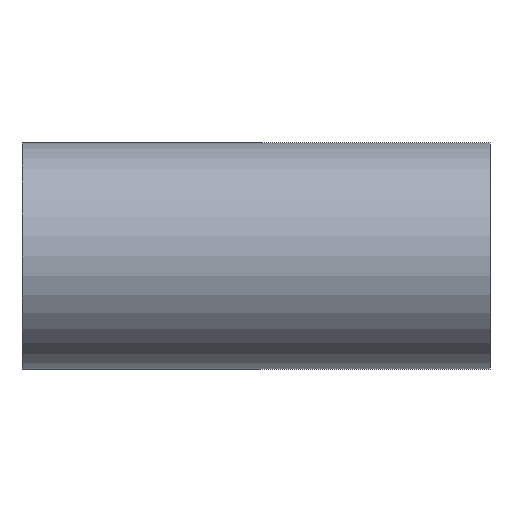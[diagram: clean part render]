
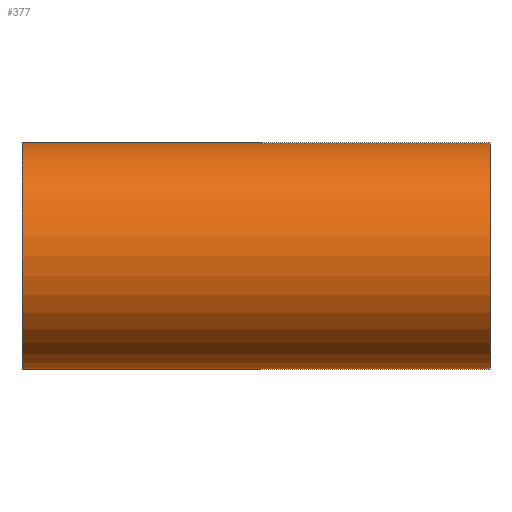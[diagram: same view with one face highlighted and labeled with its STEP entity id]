
A CAD part, front view. The second image highlights one B-rep face of the part: STEP entity #377.
In plain terms, the highlighted cylindrical face has radius 50.8 mm (diameter 101.6 mm), a partial arc.
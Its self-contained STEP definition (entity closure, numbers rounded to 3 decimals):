
#4 = VECTOR ( 'NONE', #172, 1000. ) ;
#11 = LINE ( 'NONE', #407, #100 ) ;
#15 = DIRECTION ( 'NONE',  ( 1., 0., 0. ) ) ;
#17 = CARTESIAN_POINT ( 'NONE',  ( -104.8, 0., 0. ) ) ;
#22 = CARTESIAN_POINT ( 'NONE',  ( 0., 0., -50.8 ) ) ;
#29 = FACE_OUTER_BOUND ( 'NONE', #252, .T. ) ;
#34 = EDGE_CURVE ( 'NONE', #273, #365, #193, .T. ) ;
#47 = DIRECTION ( 'NONE',  ( 1., 0., 0. ) ) ;
#57 = DIRECTION ( 'NONE',  ( 0., 0., -1. ) ) ;
#71 = DIRECTION ( 'NONE',  ( 1., 0., 0. ) ) ;
#78 = ORIENTED_EDGE ( 'NONE', *, *, #34, .F. ) ;
#83 = LINE ( 'NONE', #165, #4 ) ;
#85 = CYLINDRICAL_SURFACE ( 'NONE', #102, 50.8 ) ;
#92 = CARTESIAN_POINT ( 'NONE',  ( 0., 0., 50.8 ) ) ;
#95 = CIRCLE ( 'NONE', #110, 50.8 ) ;
#100 = VECTOR ( 'NONE', #341, 1000. ) ;
#102 = AXIS2_PLACEMENT_3D ( 'NONE', #17, #47, #57 ) ;
#110 = AXIS2_PLACEMENT_3D ( 'NONE', #123, #169, #136 ) ;
#113 = EDGE_CURVE ( 'NONE', #233, #245, #209, .T. ) ;
#123 = CARTESIAN_POINT ( 'NONE',  ( -104.8, 0., 0. ) ) ;
#136 = DIRECTION ( 'NONE',  ( 0., 0., -1. ) ) ;
#137 = EDGE_CURVE ( 'NONE', #273, #233, #95, .T. ) ;
#145 = CARTESIAN_POINT ( 'NONE',  ( -104.8, 0., -50.8 ) ) ;
#146 = VECTOR ( 'NONE', #71, 1000. ) ;
#160 = CARTESIAN_POINT ( 'NONE',  ( 104.8, 0., 50.8 ) ) ;
#162 = EDGE_CURVE ( 'NONE', #365, #183, #11, .T. ) ;
#165 = CARTESIAN_POINT ( 'NONE',  ( -104.8, 0., -50.8 ) ) ;
#168 = VECTOR ( 'NONE', #15, 1000. ) ;
#169 = DIRECTION ( 'NONE',  ( 1., 0., 0. ) ) ;
#172 = DIRECTION ( 'NONE',  ( 1., 0., 0. ) ) ;
#183 = VERTEX_POINT ( 'NONE', #160 ) ;
#191 = EDGE_CURVE ( 'NONE', #288, #183, #302, .T. ) ;
#193 = LINE ( 'NONE', #231, #168 ) ;
#200 = ORIENTED_EDGE ( 'NONE', *, *, #270, .T. ) ;
#203 = CARTESIAN_POINT ( 'NONE',  ( 104.8, 0., -50.8 ) ) ;
#209 = LINE ( 'NONE', #343, #146 ) ;
#220 = CARTESIAN_POINT ( 'NONE',  ( 104.8, 0., 0. ) ) ;
#229 = ORIENTED_EDGE ( 'NONE', *, *, #113, .T. ) ;
#230 = ORIENTED_EDGE ( 'NONE', *, *, #137, .T. ) ;
#231 = CARTESIAN_POINT ( 'NONE',  ( -104.8, 0., 50.8 ) ) ;
#232 = ORIENTED_EDGE ( 'NONE', *, *, #162, .F. ) ;
#233 = VERTEX_POINT ( 'NONE', #145 ) ;
#245 = VERTEX_POINT ( 'NONE', #22 ) ;
#252 = EDGE_LOOP ( 'NONE', ( #78, #230, #229, #200, #291, #232 ) ) ;
#270 = EDGE_CURVE ( 'NONE', #245, #288, #83, .T. ) ;
#272 = CARTESIAN_POINT ( 'NONE',  ( -104.8, 0., 50.8 ) ) ;
#273 = VERTEX_POINT ( 'NONE', #272 ) ;
#288 = VERTEX_POINT ( 'NONE', #203 ) ;
#291 = ORIENTED_EDGE ( 'NONE', *, *, #191, .T. ) ;
#302 = CIRCLE ( 'NONE', #330, 50.8 ) ;
#308 = DIRECTION ( 'NONE',  ( -1., 0., 0. ) ) ;
#330 = AXIS2_PLACEMENT_3D ( 'NONE', #220, #308, #403 ) ;
#341 = DIRECTION ( 'NONE',  ( 1., 0., 0. ) ) ;
#343 = CARTESIAN_POINT ( 'NONE',  ( -104.8, 0., -50.8 ) ) ;
#365 = VERTEX_POINT ( 'NONE', #92 ) ;
#377 = ADVANCED_FACE ( 'NONE', ( #29 ), #85, .T. ) ;
#403 = DIRECTION ( 'NONE',  ( 0., 0., -1. ) ) ;
#407 = CARTESIAN_POINT ( 'NONE',  ( -104.8, 0., 50.8 ) ) ;
